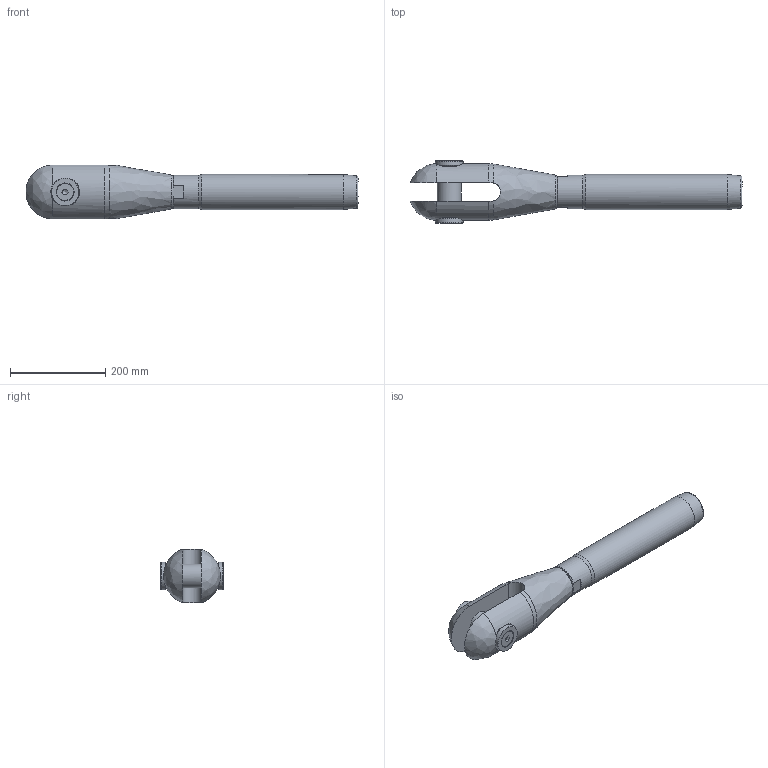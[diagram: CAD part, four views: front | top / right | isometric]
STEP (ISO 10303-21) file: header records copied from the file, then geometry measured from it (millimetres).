
FILE_DESCRIPTION(/* description */ (''),/* implementation_level */ '2;1');
FILE_NAME(/* name */ 'MAC-R 36_1,4418',/* time_stamp */ '2023-05-23T17:52:20+02:00',/* author */ (''),/* organization */ (''),/* preprocessor_version */ 'ST-DEVELOPER v16.5',/* originating_system */ 'Rhino 7.22',/* authorisation */ '');
FILE_SCHEMA (('CONFIG_CONTROL_DESIGN'));
Length unit declared in the file: millimetre
Products named in the file (1): Document
Bounding box: 695.71 x 130.04 x 112.43 mm (x, y, z)
Volume: 3603847.9 mm3; surface area: 311779 mm2
Topology: 7 solids, 7 shells, 88 faces, 245 edges, 170 vertices
Faces by surface type: plane 36, bspline 28, cylinder 24
Full cylindrical faces by diameter (mm): 17.294 x2, 20 x2, 21 x2, 35.4 x2, 48.752 x1, 50 x1, 52 x3, 58 x2, 70 x1, 73.5 x1
Entity records: 3554 total; most frequent: CARTESIAN_POINT 1995, ORIENTED_EDGE 480, EDGE_CURVE 240, VERTEX_POINT 170, EDGE_LOOP 100, B_SPLINE_CURVE_WITH_KNOTS 97, ADVANCED_FACE 88, FACE_OUTER_BOUND 88
